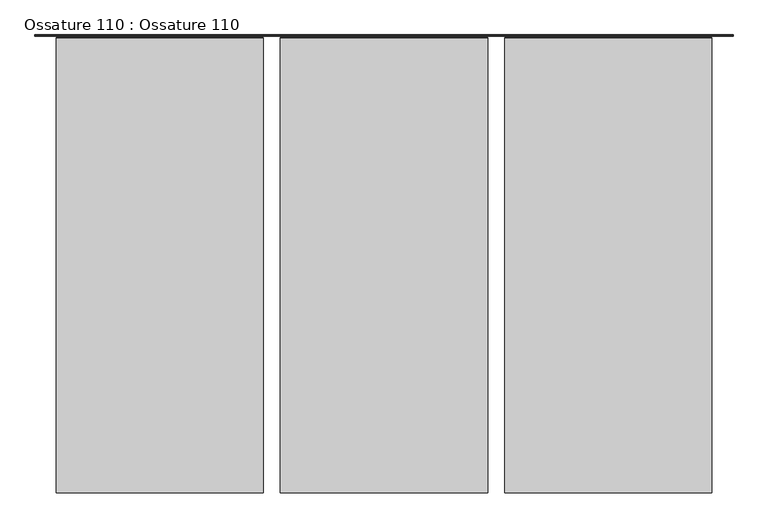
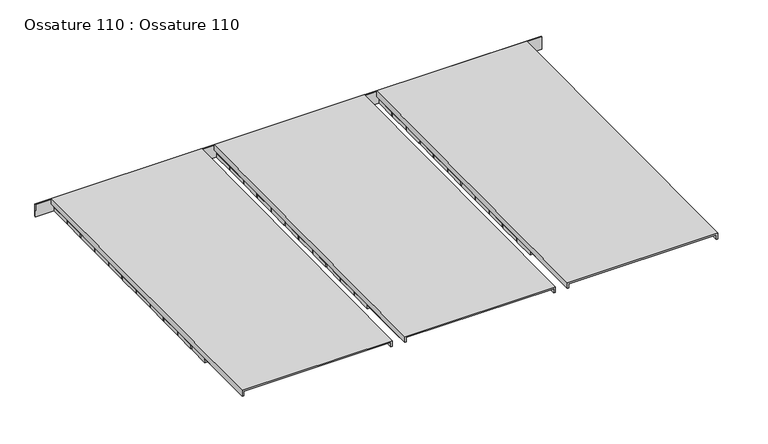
"""IFC4 building model written with IfcOpenShell, lengths in millimetres: beam geometry, Ossature 110 : Ossature 110."""

from ifc_helpers import new_model, si_unit, frame, origin, place, context, project, spatial, polyline, outline, extrude, source, transform, mapped, element, save


def ossature_110_ossature_110_f420c253(model_context):
    return source(origin(), model_context, "Body", "SweptSolid", [
        extrude(outline(polyline([(0.0, -119.9999999), (0.0, 0.0), (783.3333333, 0.0), (783.3333333, -119.9999999), (0.0, -119.9999999)])), frame((9296.2466393, 12171.4531292, 6138.870449), z_axis=(0.0, -0.008726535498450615, 0.9999619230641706), x_axis=(1.0, 0.0, 0.0)), (0.0, 0.0, 1.0), 22.0),
        extrude(outline(polyline([(0.0, -119.9999999), (0.0, 0.0), (783.3333333, 0.0), (783.3333333, -119.9999999), (0.0, -119.9999999)])), frame((9296.2466393, 12041.4580792, 6137.7359994), z_axis=(0.0, -0.008726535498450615, 0.9999619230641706), x_axis=(1.0, 0.0, 0.0)), (0.0, 0.0, 1.0), 22.0),
        extrude(outline(polyline([(0.0, -119.9999999), (0.0, 0.0), (783.3333333, 0.0), (783.3333333, -119.9999999), (0.0, -119.9999999)])), frame((9296.2466393, 11911.4630292, 6136.6015498), z_axis=(0.0, -0.008726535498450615, 0.9999619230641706), x_axis=(1.0, 0.0, 0.0)), (0.0, 0.0, 1.0), 22.0),
        extrude(outline(polyline([(0.0, -119.9999999), (0.0, 0.0), (783.3333333, 0.0), (783.3333333, -119.9999999), (0.0, -119.9999999)])), frame((9296.2466393, 11781.4679792, 6135.4671002), z_axis=(0.0, -0.008726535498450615, 0.9999619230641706), x_axis=(1.0, 0.0, 0.0)), (0.0, 0.0, 1.0), 22.0),
        extrude(outline(polyline([(0.0, -119.9999999), (0.0, 0.0), (783.3333333, 0.0), (783.3333333, -119.9999999), (0.0, -119.9999999)])), frame((9296.2466393, 11651.4729292, 6134.3326506), z_axis=(0.0, -0.008726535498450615, 0.9999619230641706), x_axis=(1.0, 0.0, 0.0)), (0.0, 0.0, 1.0), 22.0),
        extrude(outline(polyline([(0.0, -119.9999999), (0.0, 0.0), (783.3333333, 0.0), (783.3333333, -119.9999999), (0.0, -119.9999999)])), frame((9296.2466393, 11521.4778792, 6133.198201), z_axis=(0.0, -0.008726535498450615, 0.9999619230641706), x_axis=(1.0, 0.0, 0.0)), (0.0, 0.0, 1.0), 22.0),
        extrude(outline(polyline([(0.0, -119.9999999), (0.0, 0.0), (783.3333333, 0.0), (783.3333333, -119.9999999), (0.0, -119.9999999)])), frame((9296.2466393, 11391.4828292, 6132.0637513), z_axis=(0.0, -0.008726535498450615, 0.9999619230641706), x_axis=(1.0, 0.0, 0.0)), (0.0, 0.0, 1.0), 22.0),
        extrude(outline(polyline([(0.0, -119.9999999), (0.0, 0.0), (783.3333333, 0.0), (783.3333333, -119.9999999), (0.0, -119.9999999)])), frame((9296.2466393, 11261.4877792, 6130.9293017), z_axis=(0.0, -0.008726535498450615, 0.9999619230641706), x_axis=(1.0, 0.0, 0.0)), (0.0, 0.0, 1.0), 22.0),
        extrude(outline(polyline([(0.0, -119.9999999), (0.0, 0.0), (783.3333333, 0.0), (783.3333333, -119.9999999), (0.0, -119.9999999)])), frame((9296.2466393, 11131.4927292, 6129.7948521), z_axis=(0.0, -0.008726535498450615, 0.9999619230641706), x_axis=(1.0, 0.0, 0.0)), (0.0, 0.0, 1.0), 22.0),
        extrude(outline(polyline([(0.0, -119.9999999), (0.0, 0.0), (783.3333333, 0.0), (783.3333333, -119.9999999), (0.0, -119.9999999)])), frame((9296.2466393, 11001.4976792, 6128.6604025), z_axis=(0.0, -0.008726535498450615, 0.9999619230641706), x_axis=(1.0, 0.0, 0.0)), (0.0, 0.0, 1.0), 22.0),
        extrude(outline(polyline([(0.0, -120.0), (0.0, 0.0), (783.3333333, 0.0), (783.3333333, -120.0), (0.0, -120.0)])), frame((9296.2466393, 10871.5083022, 6126.9985187), z_axis=(0.0, -0.008726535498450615, 0.9999619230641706), x_axis=(1.0, 0.0, 0.0)), (0.0, 0.0, 1.0), 22.0),
        extrude(outline(polyline([(0.0, -119.9999999), (0.0, 0.0), (783.3333333, 0.0), (783.3333333, -119.9999999), (0.0, -119.9999999)])), frame((10179.5799726, 12171.4531292, 6138.870449), z_axis=(0.0, -0.008726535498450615, 0.9999619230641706), x_axis=(1.0, 0.0, 0.0)), (0.0, 0.0, 1.0), 22.0),
        extrude(outline(polyline([(0.0, -119.9999999), (0.0, 0.0), (783.3333333, 0.0), (783.3333333, -119.9999999), (0.0, -119.9999999)])), frame((10179.5799726, 12041.4580792, 6137.7359994), z_axis=(0.0, -0.008726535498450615, 0.9999619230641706), x_axis=(1.0, 0.0, 0.0)), (0.0, 0.0, 1.0), 22.0),
        extrude(outline(polyline([(0.0, -119.9999999), (0.0, 0.0), (783.3333333, 0.0), (783.3333333, -119.9999999), (0.0, -119.9999999)])), frame((10179.5799726, 11911.4630292, 6136.6015498), z_axis=(0.0, -0.008726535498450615, 0.9999619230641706), x_axis=(1.0, 0.0, 0.0)), (0.0, 0.0, 1.0), 22.0),
        extrude(outline(polyline([(0.0, -119.9999999), (0.0, 0.0), (783.3333333, 0.0), (783.3333333, -119.9999999), (0.0, -119.9999999)])), frame((10179.5799726, 11781.4679792, 6135.4671002), z_axis=(0.0, -0.008726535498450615, 0.9999619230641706), x_axis=(1.0, 0.0, 0.0)), (0.0, 0.0, 1.0), 22.0),
        extrude(outline(polyline([(0.0, -119.9999999), (0.0, 0.0), (783.3333333, 0.0), (783.3333333, -119.9999999), (0.0, -119.9999999)])), frame((10179.5799726, 11651.4729292, 6134.3326506), z_axis=(0.0, -0.008726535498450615, 0.9999619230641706), x_axis=(1.0, 0.0, 0.0)), (0.0, 0.0, 1.0), 22.0),
        extrude(outline(polyline([(0.0, -119.9999999), (0.0, 0.0), (783.3333333, 0.0), (783.3333333, -119.9999999), (0.0, -119.9999999)])), frame((10179.5799726, 11521.4778792, 6133.198201), z_axis=(0.0, -0.008726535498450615, 0.9999619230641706), x_axis=(1.0, 0.0, 0.0)), (0.0, 0.0, 1.0), 22.0),
        extrude(outline(polyline([(0.0, -119.9999999), (0.0, 0.0), (783.3333333, 0.0), (783.3333333, -119.9999999), (0.0, -119.9999999)])), frame((10179.5799726, 11391.4828292, 6132.0637513), z_axis=(0.0, -0.008726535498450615, 0.9999619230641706), x_axis=(1.0, 0.0, 0.0)), (0.0, 0.0, 1.0), 22.0),
        extrude(outline(polyline([(0.0, -119.9999999), (0.0, 0.0), (783.3333333, 0.0), (783.3333333, -119.9999999), (0.0, -119.9999999)])), frame((10179.5799726, 11261.4877792, 6130.9293017), z_axis=(0.0, -0.008726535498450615, 0.9999619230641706), x_axis=(1.0, 0.0, 0.0)), (0.0, 0.0, 1.0), 22.0),
        extrude(outline(polyline([(0.0, -119.9999999), (0.0, 0.0), (783.3333333, 0.0), (783.3333333, -119.9999999), (0.0, -119.9999999)])), frame((10179.5799726, 11131.4927292, 6129.7948521), z_axis=(0.0, -0.008726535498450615, 0.9999619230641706), x_axis=(1.0, 0.0, 0.0)), (0.0, 0.0, 1.0), 22.0),
        extrude(outline(polyline([(0.0, -119.9999999), (0.0, 0.0), (783.3333333, 0.0), (783.3333333, -119.9999999), (0.0, -119.9999999)])), frame((10179.5799726, 11001.4976792, 6128.6604025), z_axis=(0.0, -0.008726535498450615, 0.9999619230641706), x_axis=(1.0, 0.0, 0.0)), (0.0, 0.0, 1.0), 22.0),
        extrude(outline(polyline([(0.0, -120.0), (0.0, 0.0), (783.3333333, 0.0), (783.3333333, -120.0), (0.0, -120.0)])), frame((10179.5799726, 10871.5083022, 6126.9985187), z_axis=(0.0, -0.008726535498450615, 0.9999619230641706), x_axis=(1.0, 0.0, 0.0)), (0.0, 0.0, 1.0), 22.0),
        extrude(outline(polyline([(0.0, -119.9999999), (0.0, 0.0), (783.3333334, 0.0), (783.3333334, -119.9999999), (0.0, -119.9999999)])), frame((11062.9133059, 12171.4531292, 6138.870449), z_axis=(0.0, -0.008726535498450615, 0.9999619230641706), x_axis=(1.0, 0.0, 0.0)), (0.0, 0.0, 1.0), 22.0),
        extrude(outline(polyline([(0.0, -119.9999999), (0.0, 0.0), (783.3333334, 0.0), (783.3333334, -119.9999999), (0.0, -119.9999999)])), frame((11062.9133059, 12041.4580792, 6137.7359994), z_axis=(0.0, -0.008726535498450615, 0.9999619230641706), x_axis=(1.0, 0.0, 0.0)), (0.0, 0.0, 1.0), 22.0),
        extrude(outline(polyline([(0.0, -119.9999999), (0.0, 0.0), (783.3333334, 0.0), (783.3333334, -119.9999999), (0.0, -119.9999999)])), frame((11062.9133059, 11911.4630292, 6136.6015498), z_axis=(0.0, -0.008726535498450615, 0.9999619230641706), x_axis=(1.0, 0.0, 0.0)), (0.0, 0.0, 1.0), 22.0),
        extrude(outline(polyline([(0.0, -119.9999999), (0.0, 0.0), (783.3333334, 0.0), (783.3333334, -119.9999999), (0.0, -119.9999999)])), frame((11062.9133059, 11781.4679792, 6135.4671002), z_axis=(0.0, -0.008726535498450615, 0.9999619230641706), x_axis=(1.0, 0.0, 0.0)), (0.0, 0.0, 1.0), 22.0),
        extrude(outline(polyline([(0.0, -119.9999999), (0.0, 0.0), (783.3333334, 0.0), (783.3333334, -119.9999999), (0.0, -119.9999999)])), frame((11062.9133059, 11651.4729292, 6134.3326506), z_axis=(0.0, -0.008726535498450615, 0.9999619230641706), x_axis=(1.0, 0.0, 0.0)), (0.0, 0.0, 1.0), 22.0),
        extrude(outline(polyline([(0.0, -119.9999999), (0.0, 0.0), (783.3333334, 0.0), (783.3333334, -119.9999999), (0.0, -119.9999999)])), frame((11062.9133059, 11521.4778792, 6133.198201), z_axis=(0.0, -0.008726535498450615, 0.9999619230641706), x_axis=(1.0, 0.0, 0.0)), (0.0, 0.0, 1.0), 22.0),
        extrude(outline(polyline([(0.0, -119.9999999), (0.0, 0.0), (783.3333334, 0.0), (783.3333334, -119.9999999), (0.0, -119.9999999)])), frame((11062.9133059, 11391.4828292, 6132.0637513), z_axis=(0.0, -0.008726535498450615, 0.9999619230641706), x_axis=(1.0, 0.0, 0.0)), (0.0, 0.0, 1.0), 22.0),
        extrude(outline(polyline([(0.0, -119.9999999), (0.0, 0.0), (783.3333334, 0.0), (783.3333334, -119.9999999), (0.0, -119.9999999)])), frame((11062.9133059, 11261.4877792, 6130.9293017), z_axis=(0.0, -0.008726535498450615, 0.9999619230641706), x_axis=(1.0, 0.0, 0.0)), (0.0, 0.0, 1.0), 22.0),
        extrude(outline(polyline([(0.0, -119.9999999), (0.0, 0.0), (783.3333334, 0.0), (783.3333334, -119.9999999), (0.0, -119.9999999)])), frame((11062.9133059, 11131.4927292, 6129.7948521), z_axis=(0.0, -0.008726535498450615, 0.9999619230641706), x_axis=(1.0, 0.0, 0.0)), (0.0, 0.0, 1.0), 22.0),
        extrude(outline(polyline([(0.0, -119.9999999), (0.0, 0.0), (783.3333334, 0.0), (783.3333334, -119.9999999), (0.0, -119.9999999)])), frame((11062.9133059, 11001.4976792, 6128.6604025), z_axis=(0.0, -0.008726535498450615, 0.9999619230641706), x_axis=(1.0, 0.0, 0.0)), (0.0, 0.0, 1.0), 22.0),
        extrude(outline(polyline([(0.0, -120.0), (0.0, 0.0), (783.3333334, 0.0), (783.3333334, -120.0), (0.0, -120.0)])), frame((11062.9133059, 10871.5083022, 6126.9985187), z_axis=(0.0, -0.008726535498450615, 0.9999619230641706), x_axis=(1.0, 0.0, 0.0)), (0.0, 0.0, 1.0), 22.0),
        extrude(outline(polyline([(0.0, -2750.0), (0.0, 0.0), (5.0, 0.0), (5.0, -2750.0), (0.0, -2750.0)])), frame((11946.2466393, 12176.4529388, 6138.9140817), z_axis=(0.0, -0.008726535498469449, 0.9999619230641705), x_axis=(0.0, -0.9999619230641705, -0.008726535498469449)), (0.0, 0.0, 1.0), 72.0),
        extrude(outline(polyline([(0.0, -50.0), (0.0, 0.0), (1721.5069399, 0.0), (1721.5069399, -50.0), (0.0, -50.0)])), frame((11846.2466393, 12171.2611454, 6160.8696113), z_axis=(0.0, -0.008726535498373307, 0.9999619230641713), x_axis=(0.0, -0.9999619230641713, -0.008726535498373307)), (0.0, 0.0, 1.0), 40.0),
        extrude(outline(polyline([(0.0, -50.0), (0.0, 0.0), (1721.5069399, 0.0), (1721.5069399, -50.0), (0.0, -50.0)])), frame((11112.9133059, 12171.2611454, 6160.8696113), z_axis=(0.0, -0.008726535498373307, 0.9999619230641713), x_axis=(0.0, -0.9999619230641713, -0.008726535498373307)), (0.0, 0.0, 1.0), 40.0),
        extrude(outline(polyline([(0.0, -50.0), (0.0, 0.0), (1721.5069399, 0.0), (1721.5069399, -50.0), (0.0, -50.0)])), frame((10962.9133059, 12171.2611454, 6160.8696113), z_axis=(0.0, -0.008726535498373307, 0.9999619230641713), x_axis=(0.0, -0.9999619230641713, -0.008726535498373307)), (0.0, 0.0, 1.0), 40.0),
        extrude(outline(polyline([(0.0, -50.0), (0.0, 0.0), (1721.5069399, 0.0), (1721.5069399, -50.0), (0.0, -50.0)])), frame((10229.5799726, 12171.2611454, 6160.8696113), z_axis=(0.0, -0.008726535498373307, 0.9999619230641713), x_axis=(0.0, -0.9999619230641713, -0.008726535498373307)), (0.0, 0.0, 1.0), 40.0),
        extrude(outline(polyline([(0.0, -50.0), (0.0, 0.0), (1721.5069399, 0.0), (1721.5069399, -50.0), (0.0, -50.0)])), frame((9346.2466393, 12171.2611454, 6160.8696113), z_axis=(0.0, -0.008726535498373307, 0.9999619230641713), x_axis=(0.0, -0.9999619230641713, -0.008726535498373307)), (0.0, 0.0, 1.0), 40.0),
        extrude(outline(polyline([(0.0, -50.0), (0.0, 0.0), (1721.5069399, 0.0), (1721.5069399, -50.0), (0.0, -50.0)])), frame((10079.5799726, 12171.2611454, 6160.8696113), z_axis=(0.0, -0.008726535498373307, 0.9999619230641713), x_axis=(0.0, -0.9999619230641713, -0.008726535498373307)), (0.0, 0.0, 1.0), 40.0),
        extrude(outline(polyline([(-8.5, -25.0), (-16.5, -25.0), (-16.5, 8.0), (799.8333334, 8.0), (799.8333334, -25.0), (791.8333334, -25.0), (791.8333334, 0.0), (-8.5, 0.0), (-8.5, -25.0)])), frame((11846.2466393, 10371.0121751, 6195.1609805), z_axis=(0.0, 0.9999619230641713, 0.00872653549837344), x_axis=(-1.0, 0.0, 0.0)), (0.0, 0.0, 1.0), 1794.8811775),
        extrude(outline(polyline([(874.8333334, -25.0), (866.8333334, -25.0), (866.8333334, 8.0), (1683.1666667, 8.0), (1683.1666667, -25.0), (1675.1666667, -25.0), (1675.1666667, 0.0), (874.8333334, 0.0), (874.8333334, -25.0)])), frame((11846.2466393, 10371.0121751, 6195.1609805), z_axis=(0.0, 0.9999619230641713, 0.00872653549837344), x_axis=(-1.0, 0.0, 0.0)), (0.0, 0.0, 1.0), 1794.8811775),
        extrude(outline(polyline([(1758.1666667, -25.0), (1750.1666667, -25.0), (1750.1666667, 8.0), (2566.5, 8.0), (2566.5, -25.0), (2558.5, -25.0), (2558.5, 0.0), (1758.1666667, 0.0), (1758.1666667, -25.0)])), frame((11846.2466393, 10371.0121751, 6195.1609805), z_axis=(0.0, 0.9999619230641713, 0.00872653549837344), x_axis=(-1.0, 0.0, 0.0)), (0.0, 0.0, 1.0), 1794.8811775),
    ])


if __name__ == "__main__":
    model = new_model("IFC4")
    model_context = context("Model", 3, world=origin())
    ifc_project = project(units=[si_unit("LENGTHUNIT", "METRE", prefix="MILLI")], contexts=[model_context])
    site = spatial("IfcSite", under=ifc_project)
    building = spatial("IfcBuilding", under=site)
    placement = place(None, origin())
    ossature_110_ossature_110_shape = ossature_110_ossature_110_f420c253(model_context)
    element("IfcBeam", 1, ObjectType="Ossature 110 : Ossature 110", at=placement, inside=building, context=model_context, shape_type="MappedRepresentation", body=[
        mapped(ossature_110_ossature_110_shape, transform((0.0, 0.0, 0.0), x_axis=(1.0, 0.0, 0.0), y_axis=(0.0, 1.0, 0.0), z_axis=(0.0, 0.0, 1.0))),
    ])
    save(model, "model.ifc")
